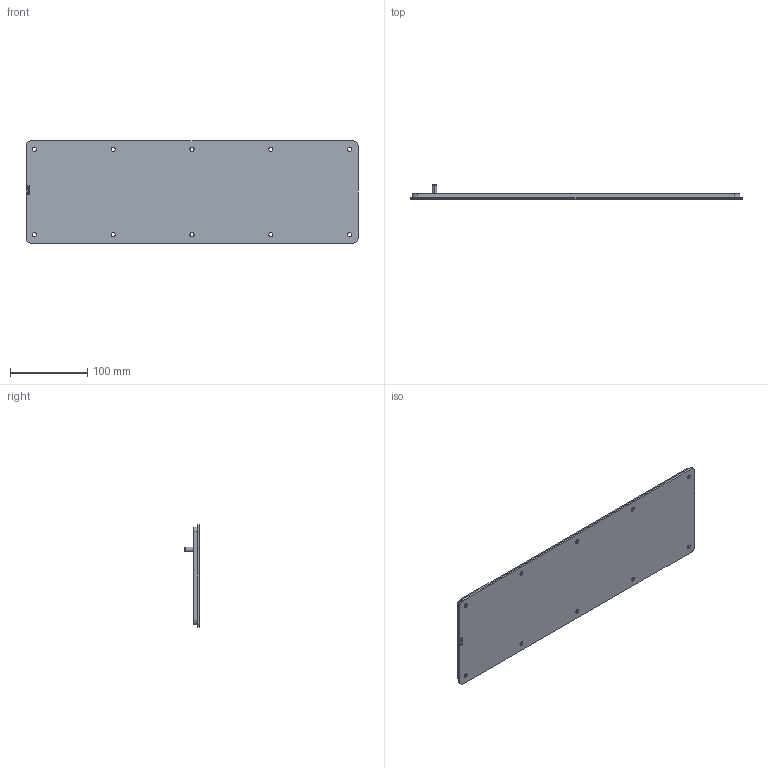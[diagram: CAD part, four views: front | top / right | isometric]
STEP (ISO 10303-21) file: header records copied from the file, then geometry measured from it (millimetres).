
FILE_DESCRIPTION (( 'STEP AP203' ), '1' );
FILE_NAME ('gp206ss6.STEP', '2011-12-08T13:12:06', ( 'Hoffman User' ), ( 'Hoffman Enclosures' ), 'SwSTEP 2.0', 'SolidWorks 2010', '' );
FILE_SCHEMA (( 'CONFIG_CONTROL_DESIGN' ));
Length unit declared in the file: inch
Products named in the file (6): 99401226_After Weld; 89075611_87930883; 89075613; gp206ss6; 89075614; 89075612
Assembly tree (5 placements, depth 4):
  gp206ss6
    89075614
      89075613
      89075612
        89075611_87930883
        99401226_After Weld
Bounding box: 431.17 x 18.41 x 132.72 mm (x, y, z)
Volume: 214782 mm3; surface area: 160555.3 mm2
Topology: 3 solids, 3 shells, 164 faces, 439 edges, 290 vertices
Faces by surface type: cylinder 60, bspline 53, plane 43, torus 6, cone 2
Entity records: 8319 total; most frequent: CARTESIAN_POINT 3724, ORIENTED_EDGE 878, DIRECTION 709, EDGE_CURVE 439, VERTEX_POINT 290, AXIS2_PLACEMENT_3D 255, EDGE_LOOP 215, LINE 199
